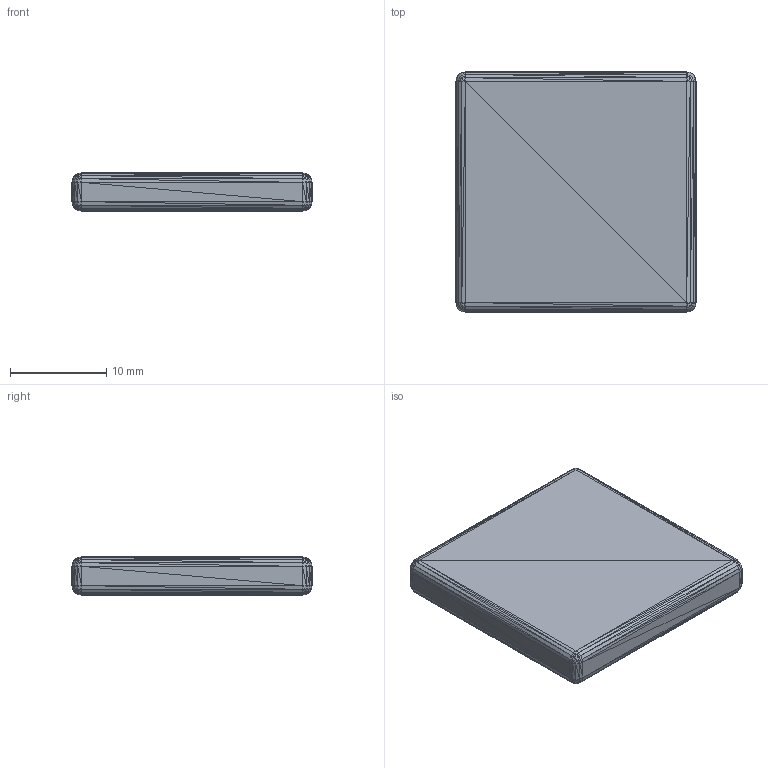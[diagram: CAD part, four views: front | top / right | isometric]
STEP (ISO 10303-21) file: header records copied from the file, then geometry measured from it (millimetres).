
FILE_DESCRIPTION((''),'2;1');
FILE_NAME('gps_patch', '2025-12-19T10:12:22', (''), (''), 'ImageToStl.com STEP Converter','', '');
FILE_SCHEMA(('AUTOMOTIVE_DESIGN_CC2'));
Length unit declared in the file: metre
Products named in the file (1): product0
Bounding box: 25 x 25 x 4 mm (x, y, z)
Surface area: 1553.8 mm2 (no closed solid volume)
Topology: 0 solids, 332 shells, 332 faces, 996 edges, 168 vertices
Faces by surface type: plane 332
Entity records: 7668 total; most frequent: DIRECTION 1662, ORIENTED_EDGE 996, EDGE_CURVE 996, LINE 996, VECTOR 996, AXIS2_PLACEMENT_3D 333, FACE_SURFACE 332, PLANE 332
